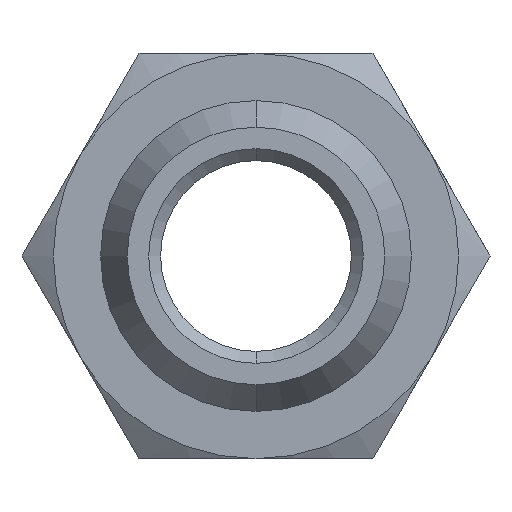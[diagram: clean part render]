
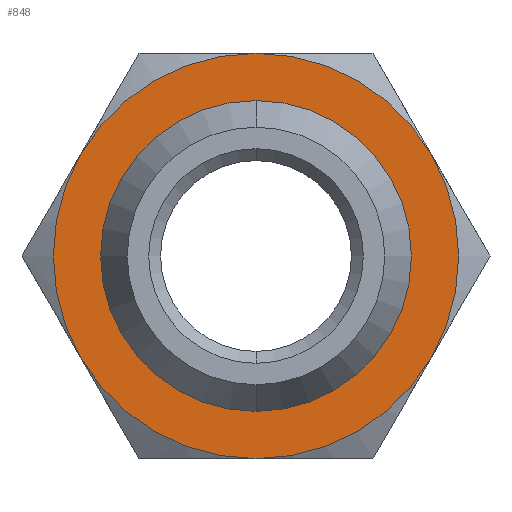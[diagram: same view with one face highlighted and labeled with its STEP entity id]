
A CAD part, front view. The second image highlights one B-rep face of the part: STEP entity #848.
In plain terms, the highlighted planar face has unit normal (0, -1, 0).
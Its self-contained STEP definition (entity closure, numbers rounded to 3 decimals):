
#87 = FACE_BOUND ( 'NONE', #161, .T. ) ;
#109 = AXIS2_PLACEMENT_3D ( 'NONE', #514, #551, #487 ) ;
#158 = EDGE_CURVE ( 'NONE', #435, #769, #905, .T. ) ;
#161 = EDGE_LOOP ( 'NONE', ( #417, #280 ) ) ;
#170 = DIRECTION ( 'NONE',  ( 0., -1., 0. ) ) ;
#177 = VERTEX_POINT ( 'NONE', #998 ) ;
#221 = CARTESIAN_POINT ( 'NONE',  ( 0., 8., 0. ) ) ;
#254 = CARTESIAN_POINT ( 'NONE',  ( 0., 8., 6.52 ) ) ;
#259 = ORIENTED_EDGE ( 'NONE', *, *, #158, .T. ) ;
#280 = ORIENTED_EDGE ( 'NONE', *, *, #1163, .F. ) ;
#341 = CARTESIAN_POINT ( 'NONE',  ( 0., 8., 0. ) ) ;
#368 = DIRECTION ( 'NONE',  ( 0., -1., 0. ) ) ;
#399 = AXIS2_PLACEMENT_3D ( 'NONE', #519, #170, #583 ) ;
#403 = EDGE_CURVE ( 'NONE', #769, #435, #510, .T. ) ;
#417 = ORIENTED_EDGE ( 'NONE', *, *, #649, .F. ) ;
#425 = AXIS2_PLACEMENT_3D ( 'NONE', #221, #368, #809 ) ;
#433 = DIRECTION ( 'NONE',  ( 0., 0., -1. ) ) ;
#435 = VERTEX_POINT ( 'NONE', #836 ) ;
#470 = CIRCLE ( 'NONE', #399, 6.52 ) ;
#487 = DIRECTION ( 'NONE',  ( 0., 0., -1. ) ) ;
#501 = PLANE ( 'NONE',  #109 ) ;
#510 = CIRCLE ( 'NONE', #425, 8.5 ) ;
#514 = CARTESIAN_POINT ( 'NONE',  ( 8.5, 8., 0. ) ) ;
#519 = CARTESIAN_POINT ( 'NONE',  ( 0., 8., 0. ) ) ;
#551 = DIRECTION ( 'NONE',  ( 0., -1., 0. ) ) ;
#583 = DIRECTION ( 'NONE',  ( 0., 0., -1. ) ) ;
#630 = AXIS2_PLACEMENT_3D ( 'NONE', #891, #1017, #933 ) ;
#649 = EDGE_CURVE ( 'NONE', #177, #931, #470, .T. ) ;
#658 = ORIENTED_EDGE ( 'NONE', *, *, #403, .T. ) ;
#667 = EDGE_LOOP ( 'NONE', ( #259, #658 ) ) ;
#769 = VERTEX_POINT ( 'NONE', #795 ) ;
#795 = CARTESIAN_POINT ( 'NONE',  ( 0., 8., 8.5 ) ) ;
#809 = DIRECTION ( 'NONE',  ( 0., 0., -1. ) ) ;
#833 = FACE_OUTER_BOUND ( 'NONE', #667, .T. ) ;
#836 = CARTESIAN_POINT ( 'NONE',  ( 0., 8., -8.5 ) ) ;
#848 = ADVANCED_FACE ( 'NONE', ( #833, #87 ), #501, .T. ) ;
#859 = CIRCLE ( 'NONE', #996, 6.52 ) ;
#878 = DIRECTION ( 'NONE',  ( 0., -1., 0. ) ) ;
#891 = CARTESIAN_POINT ( 'NONE',  ( 0., 8., 0. ) ) ;
#905 = CIRCLE ( 'NONE', #630, 8.5 ) ;
#931 = VERTEX_POINT ( 'NONE', #254 ) ;
#933 = DIRECTION ( 'NONE',  ( 0., 0., -1. ) ) ;
#996 = AXIS2_PLACEMENT_3D ( 'NONE', #341, #878, #433 ) ;
#998 = CARTESIAN_POINT ( 'NONE',  ( 0., 8., -6.52 ) ) ;
#1017 = DIRECTION ( 'NONE',  ( 0., -1., 0. ) ) ;
#1163 = EDGE_CURVE ( 'NONE', #931, #177, #859, .T. ) ;
